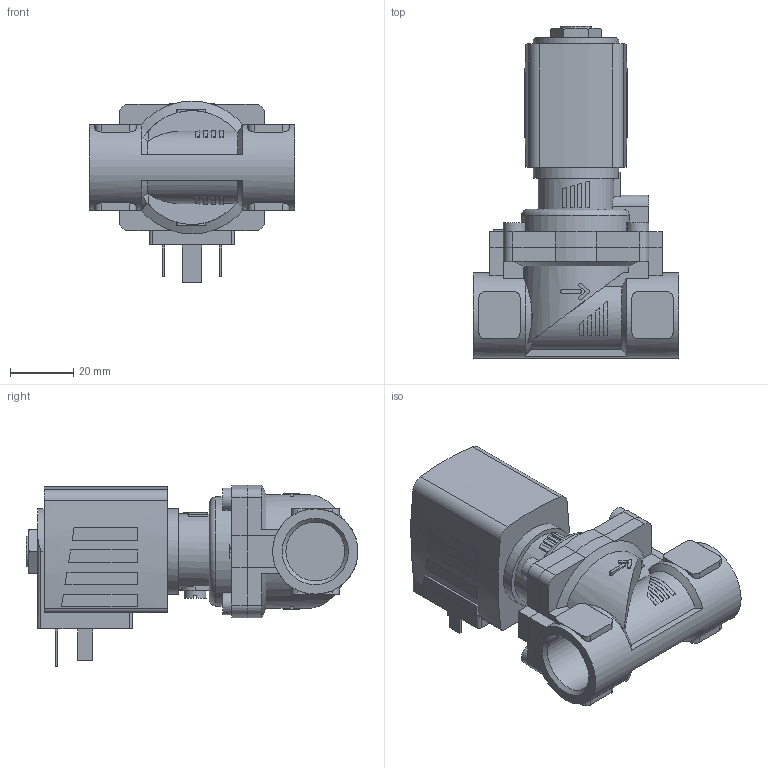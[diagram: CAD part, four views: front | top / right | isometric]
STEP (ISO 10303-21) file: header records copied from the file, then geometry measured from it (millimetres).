
FILE_DESCRIPTION(/* description */ ('STEP AP214'),/* implementation_level */ '2;1');
FILE_NAME(/* name */ '6281-340038-2_2-Way_Solenoid_Valve__Servo-assisted__General_Purpose',/* time_stamp */ '2024-06-21T18:00:04+02:00',/* author */ ('License CC BY-ND 4.0'),/* organization */ ('CADENAS'),/* preprocessor_version */ 'ST-DEVELOPER v19.3',/* originating_system */ 'PARTsolutions',/* authorisation */ ' ');
FILE_SCHEMA (('MODEL_BASED_INTEGRATED_MANUFACTURING_SCHEMA','AUTOMOTIVE_DESIGN {1 0 10303 214 3 1 1}'));
Length unit declared in the file: millimetre
Products named in the file (4): 6281-340038-2/2-Way Solenoid Valve, Servo-assisted, General Purpose; 5281ev132VA2/2-Wege-Magnetventil mit Servomembran-Deckel 42HA15 ; 6213-13G1/2VA-Gehaeuse-; AC10ex-5NA38-Plan-Coil
Assembly tree (3 placements, depth 2):
  6281-340038-2/2-Way Solenoid Valve, Servo-assisted, General Purpose
    5281ev132VA2/2-Wege-Magnetventil mit Servomembran-Deckel 42HA15 
    6213-13G1/2VA-Gehaeuse-
    AC10ex-5NA38-Plan-Coil
Bounding box: 65 x 105 x 57.5 mm (x, y, z)
Volume: 119840.7 mm3; surface area: 29444.3 mm2
Topology: 3 solids, 3 shells, 355 faces, 899 edges, 588 vertices
Faces by surface type: plane 247, cylinder 92, cone 15, torus 1
Full cylindrical faces by diameter (mm): 2.013 x1, 7 x5, 9.74 x1, 18.631 x2, 27 x2
Entity records: 12036 total; most frequent: CARTESIAN_POINT 2089, DIRECTION 1788, ORIENTED_EDGE 1750, EDGE_CURVE 875, AXIS2_PLACEMENT_3D 627, VERTEX_POINT 581, LINE 534, VECTOR 534
